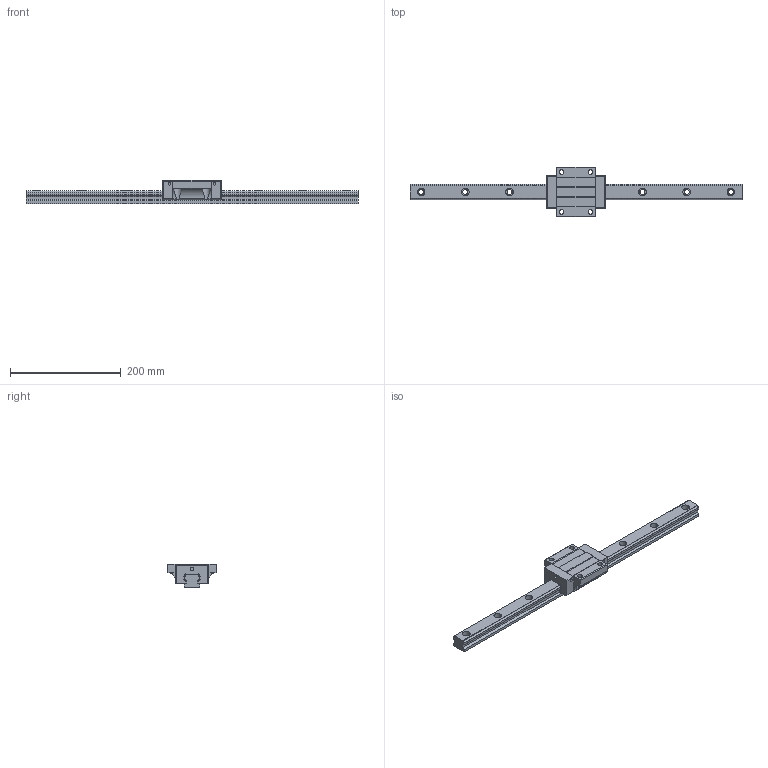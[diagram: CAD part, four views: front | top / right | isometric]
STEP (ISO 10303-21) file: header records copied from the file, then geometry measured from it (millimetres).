
FILE_DESCRIPTION (( 'STEP AP203' ), '1' );
FILE_NAME ('TRH30FN-ZN.STEP', '2024-05-14T07:54:44', ( '' ), ( '' ), 'SwSTEP 2.0', 'SolidWorks 2022', '' );
FILE_SCHEMA (( 'CONFIG_CONTROL_DESIGN' ));
Length unit declared in the file: millimetre
Products named in the file (1): TRH30FN-ZN
Bounding box: 600 x 90 x 42 mm (x, y, z)
Volume: 519180.3 mm3; surface area: 105139 mm2
Topology: 2 solids, 2 shells, 236 faces, 630 edges, 408 vertices
Faces by surface type: cylinder 130, plane 102, sphere 4
Entity records: 8122 total; most frequent: CARTESIAN_POINT 1990, DIRECTION 1294, ORIENTED_EDGE 1252, EDGE_CURVE 626, AXIS2_PLACEMENT_3D 465, VERTEX_POINT 408, LINE 364, VECTOR 364
